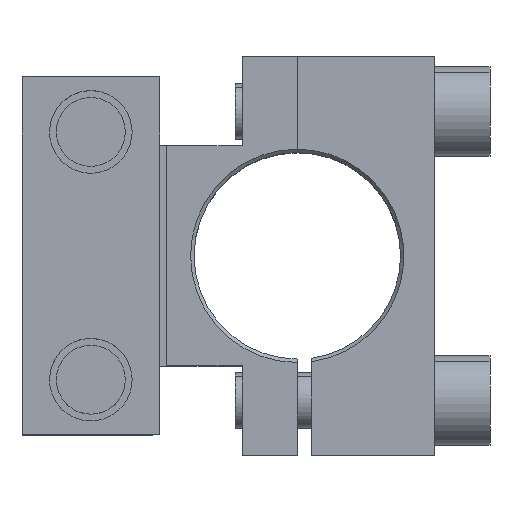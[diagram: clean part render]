
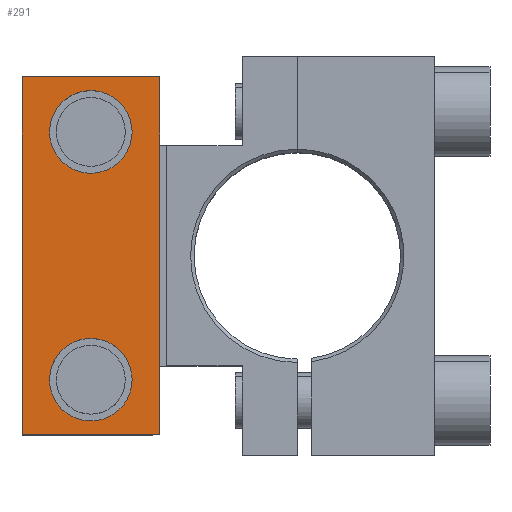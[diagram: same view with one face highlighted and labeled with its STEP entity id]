
A CAD part, top view. The second image highlights one B-rep face of the part: STEP entity #291.
In plain terms, the highlighted planar face has unit normal (0, 0, 1).
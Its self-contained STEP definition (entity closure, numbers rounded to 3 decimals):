
#291=ADVANCED_FACE('Pad.2',(#627,#628,#629),#630,.T.);
#627=FACE_OUTER_BOUND('',#1052,.T.);
#628=FACE_BOUND('',#1053,.T.);
#629=FACE_BOUND('',#1054,.T.);
#630=PLANE('',#1055);
#1052=EDGE_LOOP('',(#1708,#1709,#1710,#1711));
#1053=EDGE_LOOP('',(#1712,#1713,#1714,#1715));
#1054=EDGE_LOOP('',(#1716,#1717,#1718,#1719));
#1055=AXIS2_PLACEMENT_3D('',#1720,#1721,#1722);
#1708=ORIENTED_EDGE('',*,*,#2534,.F.);
#1709=ORIENTED_EDGE('',*,*,#2547,.T.);
#1710=ORIENTED_EDGE('',*,*,#2551,.T.);
#1711=ORIENTED_EDGE('',*,*,#2552,.F.);
#1712=ORIENTED_EDGE('',*,*,#2553,.F.);
#1713=ORIENTED_EDGE('',*,*,#2554,.F.);
#1714=ORIENTED_EDGE('',*,*,#2518,.F.);
#1715=ORIENTED_EDGE('',*,*,#2521,.F.);
#1716=ORIENTED_EDGE('',*,*,#2555,.F.);
#1717=ORIENTED_EDGE('',*,*,#2556,.F.);
#1718=ORIENTED_EDGE('',*,*,#2500,.F.);
#1719=ORIENTED_EDGE('',*,*,#2503,.F.);
#1720=CARTESIAN_POINT('',(-5.0,26.0,16.5));
#1721=DIRECTION('',(-0.0,0.0,1.0));
#1722=DIRECTION('',(0.0,-1.0,0.0));
#2500=EDGE_CURVE('',#2988,#2984,#2990,.T.);
#2503=EDGE_CURVE('',#2992,#2988,#2995,.T.);
#2518=EDGE_CURVE('',#3018,#3014,#3020,.T.);
#2521=EDGE_CURVE('',#3022,#3018,#3025,.T.);
#2534=EDGE_CURVE('',#3046,#3048,#3049,.T.);
#2547=EDGE_CURVE('',#3046,#3067,#3069,.T.);
#2551=EDGE_CURVE('',#3067,#3073,#3074,.T.);
#2552=EDGE_CURVE('',#3048,#3073,#3075,.T.);
#2553=EDGE_CURVE('',#3076,#3022,#3077,.T.);
#2554=EDGE_CURVE('',#3014,#3076,#3078,.T.);
#2555=EDGE_CURVE('',#3079,#2992,#3080,.T.);
#2556=EDGE_CURVE('',#2984,#3079,#3081,.T.);
#2984=VERTEX_POINT('',#3750);
#2988=VERTEX_POINT('',#3755);
#2990=CIRCLE('',#3758,6.0);
#2992=VERTEX_POINT('',#3760);
#2995=CIRCLE('',#3764,6.0);
#3014=VERTEX_POINT('',#3786);
#3018=VERTEX_POINT('',#3791);
#3020=CIRCLE('',#3794,6.0);
#3022=VERTEX_POINT('',#3796);
#3025=CIRCLE('',#3800,6.0);
#3046=VERTEX_POINT('',#3941);
#3048=VERTEX_POINT('',#3944);
#3049=LINE('',#3945,#3946);
#3067=VERTEX_POINT('',#3982);
#3069=LINE('',#3985,#3986);
#3073=VERTEX_POINT('',#4042);
#3074=LINE('',#4043,#4044);
#3075=LINE('',#4045,#4046);
#3076=VERTEX_POINT('',#4047);
#3077=CIRCLE('',#4048,6.0);
#3078=CIRCLE('',#4049,6.0);
#3079=VERTEX_POINT('',#4050);
#3080=CIRCLE('',#4051,6.0);
#3081=CIRCLE('',#4052,6.0);
#3750=CARTESIAN_POINT('',(-1.,18.0,16.5));
#3755=CARTESIAN_POINT('',(-0.265,20.877,16.5));
#3758=AXIS2_PLACEMENT_3D('',#4665,#4666,#4667);
#3760=CARTESIAN_POINT('',(11.0,18.0,16.5));
#3764=AXIS2_PLACEMENT_3D('',#4669,#4670,#4671);
#3786=CARTESIAN_POINT('',(-1.,-18.0,16.5));
#3791=CARTESIAN_POINT('',(-0.265,-15.123,16.5));
#3794=AXIS2_PLACEMENT_3D('',#4695,#4696,#4697);
#3796=CARTESIAN_POINT('',(11.0,-18.0,16.5));
#3800=AXIS2_PLACEMENT_3D('',#4699,#4700,#4701);
#3941=CARTESIAN_POINT('',(-5.0,26.0,16.5));
#3944=CARTESIAN_POINT('',(15.0,26.0,16.5));
#3945=CARTESIAN_POINT('',(5.0,26.0,16.5));
#3946=VECTOR('',#4716,1.0);
#3982=CARTESIAN_POINT('',(-5.0,-26.0,16.5));
#3985=CARTESIAN_POINT('',(-5.0,0.,16.5));
#3986=VECTOR('',#4729,1.0);
#4042=CARTESIAN_POINT('',(15.0,-26.0,16.5));
#4043=CARTESIAN_POINT('',(5.0,-26.0,16.5));
#4044=VECTOR('',#4730,1.0);
#4045=CARTESIAN_POINT('',(15.0,0.,16.5));
#4046=VECTOR('',#4731,1.0);
#4047=CARTESIAN_POINT('',(10.265,-20.877,16.5));
#4048=AXIS2_PLACEMENT_3D('',#4732,#4733,#4734);
#4049=AXIS2_PLACEMENT_3D('',#4735,#4736,#4737);
#4050=CARTESIAN_POINT('',(10.265,15.123,16.5));
#4051=AXIS2_PLACEMENT_3D('',#4738,#4739,#4740);
#4052=AXIS2_PLACEMENT_3D('',#4741,#4742,#4743);
#4665=CARTESIAN_POINT('',(5.0,18.0,16.5));
#4666=DIRECTION('',(-0.0,0.0,1.0));
#4667=DIRECTION('',(0.0,-1.0,0.0));
#4669=CARTESIAN_POINT('',(5.0,18.0,16.5));
#4670=DIRECTION('',(-0.0,0.0,1.0));
#4671=DIRECTION('',(0.0,-1.0,0.0));
#4695=CARTESIAN_POINT('',(5.0,-18.0,16.5));
#4696=DIRECTION('',(-0.0,0.0,1.0));
#4697=DIRECTION('',(0.0,-1.0,0.0));
#4699=CARTESIAN_POINT('',(5.0,-18.0,16.5));
#4700=DIRECTION('',(-0.0,0.0,1.0));
#4701=DIRECTION('',(0.0,-1.0,0.0));
#4716=DIRECTION('',(1.0,0.0,0.0));
#4729=DIRECTION('',(0.0,-1.0,0.0));
#4730=DIRECTION('',(1.0,0.0,0.0));
#4731=DIRECTION('',(0.0,-1.0,0.0));
#4732=CARTESIAN_POINT('',(5.0,-18.0,16.5));
#4733=DIRECTION('',(-0.0,0.0,1.0));
#4734=DIRECTION('',(0.0,-1.0,0.0));
#4735=CARTESIAN_POINT('',(5.0,-18.0,16.5));
#4736=DIRECTION('',(-0.0,0.0,1.0));
#4737=DIRECTION('',(0.0,-1.0,0.0));
#4738=CARTESIAN_POINT('',(5.0,18.0,16.5));
#4739=DIRECTION('',(-0.0,0.0,1.0));
#4740=DIRECTION('',(0.0,-1.0,0.0));
#4741=CARTESIAN_POINT('',(5.0,18.0,16.5));
#4742=DIRECTION('',(-0.0,0.0,1.0));
#4743=DIRECTION('',(0.0,-1.0,0.0));
